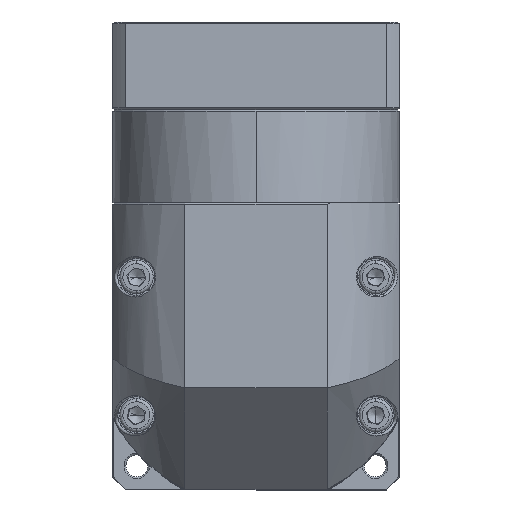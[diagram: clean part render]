
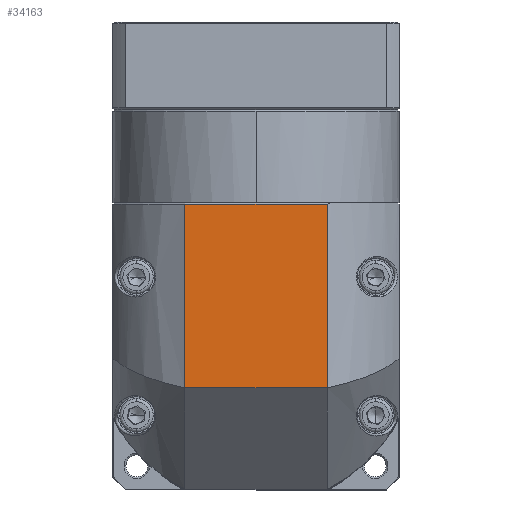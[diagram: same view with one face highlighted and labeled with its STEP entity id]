
A CAD part, top view. The second image highlights one B-rep face of the part: STEP entity #34163.
In plain terms, the highlighted planar face has unit normal (0, 0, 1).
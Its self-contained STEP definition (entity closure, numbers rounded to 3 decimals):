
#1751 = ORIENTED_EDGE ( 'NONE', *, *, #61144, .F. ) ;
#2393 = DIRECTION ( 'NONE',  ( 0., 0., 1. ) ) ;
#2484 = VECTOR ( 'NONE', #30598, 1000. ) ;
#5810 = LINE ( 'NONE', #95544, #2484 ) ;
#8096 = VERTEX_POINT ( 'NONE', #110374 ) ;
#11893 = FACE_OUTER_BOUND ( 'NONE', #80624, .T. ) ;
#12242 = AXIS2_PLACEMENT_3D ( 'NONE', #13168, #2393, #97349 ) ;
#13168 = CARTESIAN_POINT ( 'NONE',  ( -56.244, 9.979, 63.278 ) ) ;
#14388 = LINE ( 'NONE', #19652, #22729 ) ;
#14512 = LINE ( 'NONE', #74391, #32945 ) ;
#19652 = CARTESIAN_POINT ( 'NONE',  ( -56.244, -2.521, 63.278 ) ) ;
#22729 = VECTOR ( 'NONE', #51611, 1000. ) ;
#23331 = EDGE_CURVE ( 'NONE', #8096, #43344, #14388, .T. ) ;
#29845 = ORIENTED_EDGE ( 'NONE', *, *, #23331, .F. ) ;
#30598 = DIRECTION ( 'NONE',  ( -1., 0., 0. ) ) ;
#32945 = VECTOR ( 'NONE', #96502, 1000. ) ;
#34163 = ADVANCED_FACE ( 'NONE', ( #11893 ), #44589, .T. ) ;
#37415 = EDGE_CURVE ( 'NONE', #128335, #122661, #5810, .T. ) ;
#43344 = VERTEX_POINT ( 'NONE', #123215 ) ;
#44589 = PLANE ( 'NONE',  #12242 ) ;
#51416 = CARTESIAN_POINT ( 'NONE',  ( -77.457, 51.979, 63.278 ) ) ;
#51611 = DIRECTION ( 'NONE',  ( -1., 0., 0. ) ) ;
#61144 = EDGE_CURVE ( 'NONE', #43344, #122661, #83620, .T. ) ;
#62342 = CARTESIAN_POINT ( 'NONE',  ( -77.457, -48.021, 63.278 ) ) ;
#63340 = CARTESIAN_POINT ( 'NONE',  ( -35.03, 51.979, 63.278 ) ) ;
#74391 = CARTESIAN_POINT ( 'NONE',  ( -35.03, -48.021, 63.278 ) ) ;
#80624 = EDGE_LOOP ( 'NONE', ( #1751, #29845, #111170, #97274 ) ) ;
#83620 = LINE ( 'NONE', #62342, #117368 ) ;
#95544 = CARTESIAN_POINT ( 'NONE',  ( -56.244, 51.979, 63.278 ) ) ;
#96502 = DIRECTION ( 'NONE',  ( 0., -1., 0. ) ) ;
#97274 = ORIENTED_EDGE ( 'NONE', *, *, #37415, .T. ) ;
#97349 = DIRECTION ( 'NONE',  ( 0., 1., 0. ) ) ;
#103740 = DIRECTION ( 'NONE',  ( 0., 1., 0. ) ) ;
#110374 = CARTESIAN_POINT ( 'NONE',  ( -35.03, -2.521, 63.278 ) ) ;
#111170 = ORIENTED_EDGE ( 'NONE', *, *, #120684, .F. ) ;
#117368 = VECTOR ( 'NONE', #103740, 1000. ) ;
#120684 = EDGE_CURVE ( 'NONE', #128335, #8096, #14512, .T. ) ;
#122661 = VERTEX_POINT ( 'NONE', #51416 ) ;
#123215 = CARTESIAN_POINT ( 'NONE',  ( -77.457, -2.521, 63.278 ) ) ;
#128335 = VERTEX_POINT ( 'NONE', #63340 ) ;
